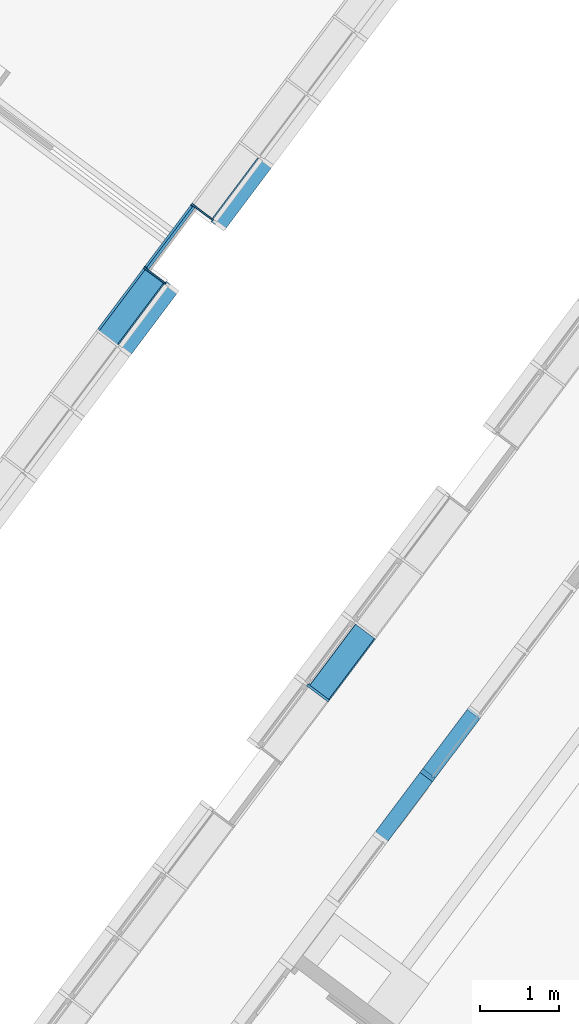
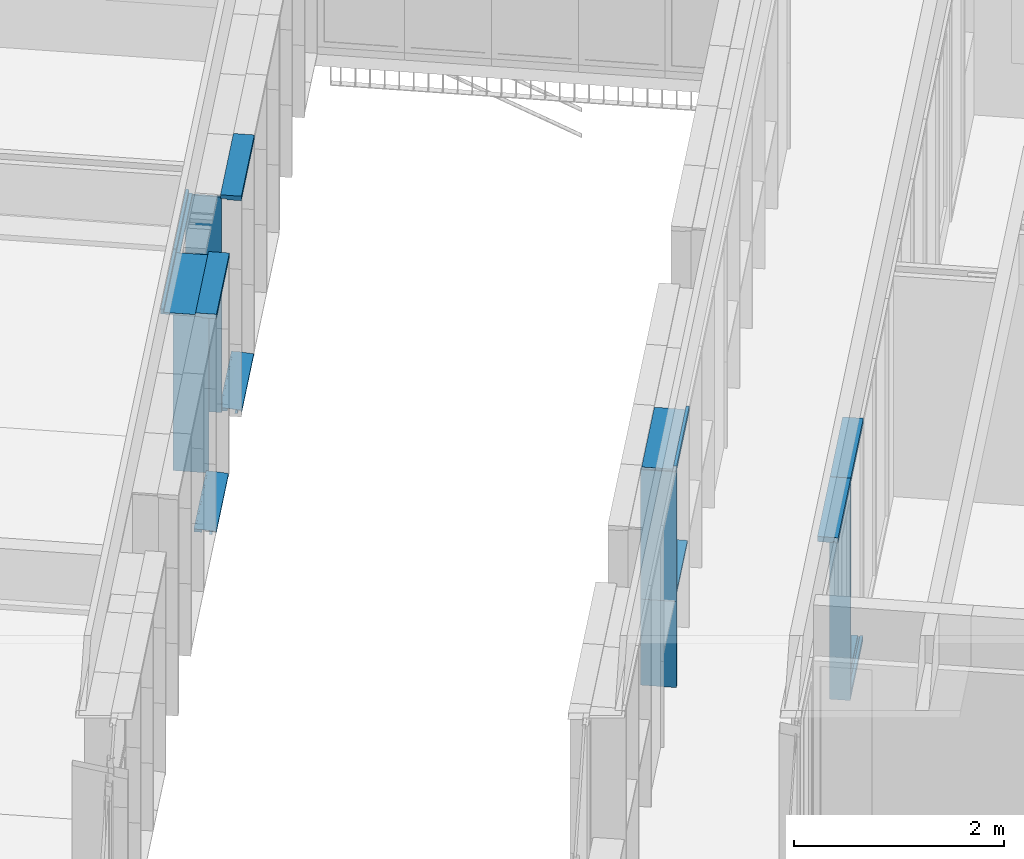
# One storey, part 45 of 243: 16 members, 4 elements without a shape of their own.
"""IFC2X3 building model written with IfcOpenShell, lengths in metres."""

from ifc_helpers import new_model, entity, si_unit, converted_unit, derived_unit, direction, frame, frame_2d, origin, place, context, subcontext, project, spatial, polyline, circle_curve, parameter, trimmed, segment, composite_curve, rectangle, outline, extrude, source, transform, mapped, material, type_object, type_shapes, element, aggregate, save


model = new_model("IFC2X3")

# Units and contexts
model_context = context("Model", 3, precision=1e-05, world=origin(), true_north=direction((6.123031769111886e-17, 1.0)))
body_context = subcontext(model_context, "Body", "Model", "MODEL_VIEW")
ifc_project = project(units=[si_unit("LENGTHUNIT", "METRE"), si_unit("AREAUNIT", "SQUARE_METRE"), si_unit("VOLUMEUNIT", "CUBIC_METRE"), converted_unit("PLANEANGLEUNIT", "DEGREE", entity("IfcRatioMeasure", 0.017453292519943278), si_unit("PLANEANGLEUNIT", "RADIAN"), dimensions=[0, 0, 0, 0, 0, 0, 0]), si_unit("MASSUNIT", "GRAM", prefix="KILO"), derived_unit("MASSDENSITYUNIT", [(si_unit("MASSUNIT", "GRAM", prefix="KILO"), 1), (si_unit("LENGTHUNIT", "METRE"), -3)]), derived_unit("IONCONCENTRATIONUNIT", [(si_unit("MASSUNIT", "GRAM", prefix="KILO"), 1), (si_unit("LENGTHUNIT", "METRE"), -3)]), derived_unit("MOMENTOFINERTIAUNIT", [(si_unit("LENGTHUNIT", "METRE"), 4)]), si_unit("TIMEUNIT", "SECOND"), si_unit("FREQUENCYUNIT", "HERTZ"), si_unit("THERMODYNAMICTEMPERATUREUNIT", "DEGREE_CELSIUS"), derived_unit("THERMALTRANSMITTANCEUNIT", [(si_unit("MASSUNIT", "GRAM", prefix="KILO"), 1), (si_unit("THERMODYNAMICTEMPERATUREUNIT", "KELVIN"), -1), (si_unit("TIMEUNIT", "SECOND"), -3)]), derived_unit("THERMALCONDUCTANCEUNIT", [(si_unit("MASSUNIT", "GRAM", prefix="KILO"), 1), (si_unit("THERMODYNAMICTEMPERATUREUNIT", "KELVIN"), -1), (si_unit("TIMEUNIT", "SECOND"), -3), (si_unit("LENGTHUNIT", "METRE"), 1)]), derived_unit("VOLUMETRICFLOWRATEUNIT", [(si_unit("LENGTHUNIT", "METRE"), 3), (si_unit("TIMEUNIT", "SECOND"), -1)]), derived_unit("MASSFLOWRATEUNIT", [(si_unit("MASSUNIT", "GRAM", prefix="KILO"), 1), (si_unit("TIMEUNIT", "SECOND"), -1)]), derived_unit("ROTATIONALFREQUENCYUNIT", [(si_unit("TIMEUNIT", "SECOND"), -1)]), si_unit("ELECTRICCURRENTUNIT", "AMPERE"), si_unit("ELECTRICVOLTAGEUNIT", "VOLT"), si_unit("POWERUNIT", "WATT"), si_unit("FORCEUNIT", "NEWTON", prefix="KILO"), si_unit("ILLUMINANCEUNIT", "LUX"), si_unit("LUMINOUSFLUXUNIT", "LUMEN"), si_unit("LUMINOUSINTENSITYUNIT", "CANDELA"), derived_unit("USERDEFINED", [(si_unit("MASSUNIT", "GRAM", prefix="KILO"), -1), (si_unit("LENGTHUNIT", "METRE"), -2), (si_unit("TIMEUNIT", "SECOND"), 3), (si_unit("LUMINOUSFLUXUNIT", "LUMEN"), 1)]), derived_unit("USERDEFINED", [(si_unit("MASSUNIT", "GRAM", prefix="KILO"), 1), (si_unit("TIMEUNIT", "SECOND"), -3), (si_unit("LENGTHUNIT", "METRE"), 3), (si_unit("ELECTRICCURRENTUNIT", "AMPERE"), -2)]), derived_unit("SOUNDPOWERUNIT", [(si_unit("MASSUNIT", "GRAM", prefix="KILO"), 1), (si_unit("TIMEUNIT", "SECOND"), -3), (si_unit("LENGTHUNIT", "METRE"), 2)]), derived_unit("SOUNDPRESSUREUNIT", [(si_unit("MASSUNIT", "GRAM", prefix="KILO"), 1), (si_unit("LENGTHUNIT", "METRE"), -1), (si_unit("TIMEUNIT", "SECOND"), -2)]), derived_unit("LINEARVELOCITYUNIT", [(si_unit("LENGTHUNIT", "METRE"), 1), (si_unit("TIMEUNIT", "SECOND"), -1)]), si_unit("PRESSUREUNIT", "PASCAL"), derived_unit("USERDEFINED", [(si_unit("MASSUNIT", "GRAM", prefix="KILO"), 1), (si_unit("LENGTHUNIT", "METRE"), -2), (si_unit("TIMEUNIT", "SECOND"), -2)]), derived_unit("LINEARFORCEUNIT", [(si_unit("MASSUNIT", "GRAM", prefix="KILO"), 1), (si_unit("TIMEUNIT", "SECOND"), -2)]), derived_unit("PLANARFORCEUNIT", [(si_unit("MASSUNIT", "GRAM", prefix="KILO"), 1), (si_unit("LENGTHUNIT", "METRE"), -1), (si_unit("TIMEUNIT", "SECOND"), -2)]), derived_unit("SPECIFICHEATCAPACITYUNIT", [(si_unit("THERMODYNAMICTEMPERATUREUNIT", "KELVIN"), -1), (si_unit("LENGTHUNIT", "METRE"), 2), (si_unit("TIMEUNIT", "SECOND"), -2)]), derived_unit("HEATINGVALUEUNIT", [(si_unit("LENGTHUNIT", "METRE"), 2), (si_unit("TIMEUNIT", "SECOND"), -2)]), derived_unit("VAPORPERMEABILITYUNIT", [(si_unit("LENGTHUNIT", "METRE"), -1), (si_unit("TIMEUNIT", "SECOND"), 1)]), derived_unit("DYNAMICVISCOSITYUNIT", [(si_unit("MASSUNIT", "GRAM", prefix="KILO"), 1), (si_unit("TIMEUNIT", "SECOND"), -1), (si_unit("LENGTHUNIT", "METRE"), -1)]), derived_unit("THERMALEXPANSIONCOEFFICIENTUNIT", [(si_unit("THERMODYNAMICTEMPERATUREUNIT", "KELVIN"), -1)]), derived_unit("MODULUSOFELASTICITYUNIT", [(si_unit("MASSUNIT", "GRAM", prefix="KILO"), 1), (si_unit("LENGTHUNIT", "METRE"), -1), (si_unit("TIMEUNIT", "SECOND"), -2)]), derived_unit("ISOTHERMALMOISTURECAPACITYUNIT", [(si_unit("LENGTHUNIT", "METRE"), 3), (si_unit("MASSUNIT", "GRAM", prefix="KILO"), -1)]), derived_unit("MOISTUREDIFFUSIVITYUNIT", [(si_unit("TIMEUNIT", "SECOND"), -1), (si_unit("LENGTHUNIT", "METRE"), 2)])], contexts=[model_context])

# Site, building, storey
site_placement = place(None, frame((0.0, 0.0, 235.0), z_axis=(0.0, 0.0, 1.0), x_axis=(-0.7996477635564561, 0.6004693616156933, 0.0)))
site = spatial("IfcSite", under=ifc_project, at=site_placement, Name="Default", CompositionType="ELEMENT")
building_placement = place(site_placement, origin())
building = spatial("IfcBuilding", under=site, at=building_placement, CompositionType="ELEMENT")
storey_placement = place(building_placement, origin())
storey = spatial("IfcBuildingStorey", under=building, at=storey_placement, Name="P0- Escola", CompositionType="ELEMENT", Elevation=0.0)

# Curtain wall, members
curtain_wall_type_1 = type_object("IfcCurtainWallType", Name="Muro cortina:MC- INT- a1", PredefinedType="NOTDEFINED")
curtain_wall_1_placement = place(storey_placement, origin())
curtain_wall_1 = element("IfcCurtainWall", 1, at=curtain_wall_1_placement, inside=storey, type_object=curtain_wall_type_1, Name="Muro cortina:MC- INT- a1", ObjectType="Muro cortina:MC- INT- a1")
ifc_material_1 = material(Name="_Fusta massisa- T1")
member_type_1 = type_object("IfcMemberType", Name="Montante rectangular:MC- Fusta- 20x6 cm- Esquerra", PredefinedType="MULLION", material=ifc_material_1)
shared_shape_1 = source(origin(), body_context, "Body", "SweptSolid", [
    extrude(outline(polyline([(-0.07000000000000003, -0.01875000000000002), (-0.04000000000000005, -0.01875000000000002), (-0.04000000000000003, -0.0037500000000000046), (-0.020000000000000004, -0.0037500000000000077), (-0.02, -0.018750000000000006), (0.13, -0.018749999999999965), (0.12999999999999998, 0.04125000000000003), (-0.06999999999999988, 0.04124999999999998), (-0.07000000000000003, -0.01875000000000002)])), frame((-0.041249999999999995, -0.03, -1.0), z_axis=(0.0, 0.0, 1.0), x_axis=(0.0, -1.0, 0.0)), (0.0, 0.0, 1.0), 0.9999999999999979),
])
type_shapes(member_type_1, [shared_shape_1])
member_1_placement = place(curtain_wall_1_placement, frame((47.320147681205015, -26.41518997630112, 2.565), z_axis=(0.0, -1.0, 0.0), x_axis=(0.0, 0.0, 1.0)))
member_1 = element("IfcMember", 2, at=member_1_placement, type_object=member_type_1, material=ifc_material_1, Name="Montante rectangular:MC- Fusta- 20x6 cm- Esquerra", ObjectType="Montante rectangular:MC- Fusta- 20x6 cm- Esquerra", context=body_context, shape_type="MappedRepresentation", body=[
    mapped(shared_shape_1, transform((0.0, 0.0, 0.0), scale=1.0)),
])
member_type_2 = type_object("IfcMemberType", Name="Montante rectangular:MC- Fusta- 20x6 cm- Neutre", PredefinedType="MULLION", material=ifc_material_1)
shared_shape_2 = source(origin(), body_context, "Body", "SweptSolid", [
    extrude(rectangle(XDim=0.2, YDim=0.060000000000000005, at=frame_2d((-4.85722573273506e-17, -3.469446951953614e-18), x_axis=(1.0, 0.0))), frame((-0.03, -0.060000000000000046, -1.0), z_axis=(0.0, 0.0, 1.0), x_axis=(0.0, -1.0, 0.0)), (0.0, 0.0, 1.0), 0.9999999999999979),
])
type_shapes(member_type_2, [shared_shape_2])
member_2_placement = place(curtain_wall_1_placement, frame((47.320147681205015, -27.415189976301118, 2.565), z_axis=(0.0, -1.0, 0.0), x_axis=(0.0, 0.0, 1.0)))
member_2 = element("IfcMember", 3, at=member_2_placement, type_object=member_type_2, material=ifc_material_1, Name="Montante rectangular:MC- Fusta- 20x6 cm- Neutre", ObjectType="Montante rectangular:MC- Fusta- 20x6 cm- Neutre", context=body_context, shape_type="MappedRepresentation", body=[
    mapped(shared_shape_2, transform((0.0, 0.0, 0.0), scale=1.0)),
])
member_type_3 = type_object("IfcMemberType", Name="Montante rectangular:MC- Fusta- 20x6 cm- Dreta", PredefinedType="MULLION", material=ifc_material_1)
shared_shape_3 = source(origin(), body_context, "Body", "SweptSolid", [
    extrude(outline(polyline([(-0.07000000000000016, -0.041249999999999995), (0.13000000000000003, -0.041249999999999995), (0.13000000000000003, 0.01875), (-0.019999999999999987, 0.01875), (-0.019999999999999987, 0.00375), (-0.04000000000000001, 0.00375), (-0.03999999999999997, 0.01875), (-0.06999999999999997, 0.01875), (-0.07000000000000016, -0.041249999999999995)])), frame((0.011250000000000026, -0.02999999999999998, -2.5050000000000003), z_axis=(0.0, 0.0, 1.0), x_axis=(0.0, -1.0, 0.0)), (0.0, 0.0, 1.0), 2.5050000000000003),
])
type_shapes(member_type_3, [shared_shape_3])
member_3_placement = place(curtain_wall_1_placement, frame((47.320147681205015, -26.41518997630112, 0.0), z_axis=(0.0, 0.0, -1.0), x_axis=(0.0, -1.0, 0.0)))
member_3 = element("IfcMember", 4, at=member_3_placement, type_object=member_type_3, material=ifc_material_1, Name="Montante rectangular:MC- Fusta- 20x6 cm- Dreta", ObjectType="Montante rectangular:MC- Fusta- 20x6 cm- Dreta", context=body_context, shape_type="MappedRepresentation", body=[
    mapped(shared_shape_3, transform((0.0, 0.0, 0.0), scale=1.0)),
])
member_type_4 = type_object("IfcMemberType", Name="Montante rectangular:MC- Fusta- 20x6 cm- Inferior", PredefinedType="MULLION", material=ifc_material_1)
shared_shape_4 = source(origin(), body_context, "Body", "SweptSolid", [
    extrude(outline(polyline([(-0.06999999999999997, -0.018750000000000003), (-0.039999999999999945, -0.018750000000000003), (-0.03999999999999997, -0.003750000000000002), (-0.019999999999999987, -0.0037500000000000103), (-0.019999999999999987, -0.018750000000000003), (0.13000000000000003, -0.018750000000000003), (0.13000000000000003, 0.041249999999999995), (-0.07000000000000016, 0.041249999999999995), (-0.06999999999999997, -0.018750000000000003)])), frame((-0.041249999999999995, -0.02999999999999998, -0.9399999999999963), z_axis=(0.0, 0.0, 1.0), x_axis=(0.0, -1.0, 0.0)), (0.0, 0.0, 1.0), 0.9399999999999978),
])
type_shapes(member_type_4, [shared_shape_4])
member_4_placement = place(curtain_wall_1_placement, frame((47.320147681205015, -26.445189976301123, 0.0), z_axis=(0.0, 1.0, 0.0), x_axis=(0.0, 0.0, -1.0)))
member_4 = element("IfcMember", 5, at=member_4_placement, type_object=member_type_4, material=ifc_material_1, Name="Montante rectangular:MC- Fusta- 20x6 cm- Inferior", ObjectType="Montante rectangular:MC- Fusta- 20x6 cm- Inferior", context=body_context, shape_type="MappedRepresentation", body=[
    mapped(shared_shape_4, transform((0.0, 0.0, 0.0), scale=1.0)),
])
aggregate(curtain_wall_1, [member_2, member_1, member_3, member_4])

curtain_wall_type_2 = type_object("IfcCurtainWallType", Name="Muro cortina:MC- INT- k7- Aules infantil", PredefinedType="NOTDEFINED")
curtain_wall_2_placement = place(storey_placement, origin())
curtain_wall_2 = element("IfcCurtainWall", 6, at=curtain_wall_2_placement, inside=storey, type_object=curtain_wall_type_2, Name="Muro cortina:MC- INT- k7- Aules infantil", ObjectType="Muro cortina:MC- INT- k7- Aules infantil")
member_type_5 = type_object("IfcMemberType", Name="Montante rectangular:MC- Fusta- 35x3 cm- Pati aules- Remat dreta", PredefinedType="MULLION", material=ifc_material_1)
shared_shape_5 = source(origin(), body_context, "Body", "SweptSolid", [
    extrude(outline(polyline([(-0.22, -0.01666666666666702), (0.12500000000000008, -0.01666666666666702), (0.12500000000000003, 0.013333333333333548), (0.09500000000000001, 0.013333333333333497), (0.09499999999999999, 0.003333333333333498), (-0.22, 0.003333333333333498), (-0.22, -0.01666666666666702)])), frame((0.0016666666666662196, 0.03000000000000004, -2.504999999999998), z_axis=(0.0, 0.0, 1.0), x_axis=(0.0, -1.0, 0.0)), (0.0, 0.0, 1.0), 2.5049999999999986),
])
type_shapes(member_type_5, [shared_shape_5])
member_5_placement = place(curtain_wall_2_placement, frame((54.04514768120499, -29.415191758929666, 0.0), z_axis=(0.0, 0.0, -1.0), x_axis=(0.0, -1.0, 0.0)))
member_5 = element("IfcMember", 7, at=member_5_placement, type_object=member_type_5, material=ifc_material_1, Name="Montante rectangular:MC- Fusta- 35x3 cm- Pati aules- Remat dreta", ObjectType="Montante rectangular:MC- Fusta- 35x3 cm- Pati aules- Remat dreta", context=body_context, shape_type="MappedRepresentation", body=[
    mapped(shared_shape_5, transform((0.0, 0.0, 0.0), scale=1.0)),
])
member_type_6 = type_object("IfcMemberType", Name="Montante rectangular:MC- Fusta- 35x3 cm- Pati aules- Remat superior pilar", PredefinedType="MULLION", material=ifc_material_1)
shared_shape_6 = source(origin(), body_context, "Body", "SweptSolid", [
    extrude(outline(polyline([(-0.03333333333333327, -0.02666666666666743), (0.031666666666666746, -0.02666666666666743), (0.031666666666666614, 0.03333333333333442), (0.0016666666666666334, 0.033333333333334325), (0.0016666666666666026, -0.006666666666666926), (-0.03333333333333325, -0.00666666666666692), (-0.03333333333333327, -0.02666666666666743)])), frame((-0.03333333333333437, -0.06333333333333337, -1.0), z_axis=(0.0, 0.0, 1.0), x_axis=(0.0, -1.0, 0.0)), (0.0, 0.0, 1.0), 0.9999999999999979),
])
type_shapes(member_type_6, [shared_shape_6])
member_6_placement = place(curtain_wall_2_placement, frame((54.045147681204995, -30.415191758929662, 2.565), z_axis=(0.0, -1.0, 0.0), x_axis=(0.0, 0.0, 1.0)))
member_6 = element("IfcMember", 8, at=member_6_placement, type_object=member_type_6, material=ifc_material_1, Name="Montante rectangular:MC- Fusta- 35x3 cm- Pati aules- Remat superior pilar", ObjectType="Montante rectangular:MC- Fusta- 35x3 cm- Pati aules- Remat superior pilar", context=body_context, shape_type="MappedRepresentation", body=[
    mapped(shared_shape_6, transform((0.0, 0.0, 0.0), scale=1.0)),
])
member_type_7 = type_object("IfcMemberType", Name="Montante rectangular:MC- Fusta- 35x3 cm- Pati aules- Remat esquerra", PredefinedType="MULLION", material=ifc_material_1)
shared_shape_7 = source(origin(), body_context, "Body", "SweptSolid", [
    extrude(outline(polyline([(0.09500000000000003, -0.013333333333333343), (0.12500000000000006, -0.013333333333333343), (0.12500000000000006, 0.01666666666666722), (-0.22000000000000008, 0.016666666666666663), (-0.22000000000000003, -0.0033333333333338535), (0.09499999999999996, -0.003333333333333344), (0.09500000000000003, -0.013333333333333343)])), frame((-0.0016666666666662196, 0.03000000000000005, -2.504999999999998), z_axis=(0.0, 0.0, 1.0), x_axis=(0.0, -1.0, 0.0)), (0.0, 0.0, 1.0), 2.5049999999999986),
])
type_shapes(member_type_7, [shared_shape_7])
member_7_placement = place(curtain_wall_2_placement, frame((54.045147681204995, -30.415191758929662, 0.0), z_axis=(0.0, 0.0, -1.0), x_axis=(0.0, -1.0, 0.0)))
member_7 = element("IfcMember", 9, at=member_7_placement, type_object=member_type_7, material=ifc_material_1, Name="Montante rectangular:MC- Fusta- 35x3 cm- Pati aules- Remat esquerra", ObjectType="Montante rectangular:MC- Fusta- 35x3 cm- Pati aules- Remat esquerra", context=body_context, shape_type="MappedRepresentation", body=[
    mapped(shared_shape_7, transform((0.0, 0.0, 0.0), scale=1.0)),
])
member_type_8 = type_object("IfcMemberType", Name="Montante rectangular:MC- Fusta- 35x3 cm- Pati aules- Remat superior", PredefinedType="MULLION", material=ifc_material_1)
shared_shape_8 = source(origin(), body_context, "Body", "SweptSolid", [
    extrude(outline(polyline([(-0.21333333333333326, -0.02666666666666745), (0.1216666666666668, -0.02666666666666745), (0.12166666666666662, 0.03333333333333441), (0.09166666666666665, 0.03333333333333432), (0.09166666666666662, -0.006666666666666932), (-0.2133333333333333, -0.006666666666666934), (-0.21333333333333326, -0.02666666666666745)])), frame((-0.033333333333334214, 0.026666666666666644, -1.0), z_axis=(0.0, 0.0, 1.0), x_axis=(0.0, -1.0, 0.0)), (0.0, 0.0, 1.0), 0.9999999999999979),
])
type_shapes(member_type_8, [shared_shape_8])
member_8_placement = place(curtain_wall_2_placement, frame((54.04514768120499, -29.415191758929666, 2.565), z_axis=(0.0, -1.0, 0.0), x_axis=(0.0, 0.0, 1.0)))
member_8 = element("IfcMember", 10, at=member_8_placement, type_object=member_type_8, material=ifc_material_1, Name="Montante rectangular:MC- Fusta- 35x3 cm- Pati aules- Remat superior", ObjectType="Montante rectangular:MC- Fusta- 35x3 cm- Pati aules- Remat superior", context=body_context, shape_type="MappedRepresentation", body=[
    mapped(shared_shape_8, transform((0.0, 0.0, 0.0), scale=1.0)),
])
aggregate(curtain_wall_2, [member_8, member_5, member_6, member_7])

curtain_wall_type_3 = type_object("IfcCurtainWallType", Name="Muro cortina:MC- INT- k2", PredefinedType="NOTDEFINED")
curtain_wall_3_placement = place(storey_placement, origin())
curtain_wall_3 = element("IfcCurtainWall", 11, at=curtain_wall_3_placement, inside=storey, type_object=curtain_wall_type_3, Name="Muro cortina:MC- INT- k2", ObjectType="Muro cortina:MC- INT- k2")
member_type_9 = type_object("IfcMemberType", Name="Montante rectangular:MC- Fusta- 35x3 cm- Centre", PredefinedType="MULLION", material=ifc_material_1)
shared_shape_9 = source(origin(), body_context, "Body", "SweptSolid", [
    extrude(rectangle(XDim=0.3450000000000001, YDim=0.030000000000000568, at=frame_2d((0.0, -1.3964523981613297e-16), x_axis=(1.0, 0.0))), frame((0.0, -0.07750000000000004, -1.0), z_axis=(0.0, 0.0, 1.0), x_axis=(0.0, -1.0, 0.0)), (0.0, 0.0, 1.0), 1.0),
])
type_shapes(member_type_9, [shared_shape_9])
member_9_placement = place(curtain_wall_3_placement, frame((49.04514768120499, -26.415191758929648, 0.0), z_axis=(0.0, 0.0, -1.0), x_axis=(0.0, -1.0, 0.0)))
member_9 = element("IfcMember", 12, at=member_9_placement, type_object=member_type_9, material=ifc_material_1, Name="Montante rectangular:MC- Fusta- 35x3 cm- Centre", ObjectType="Montante rectangular:MC- Fusta- 35x3 cm- Centre", context=body_context, shape_type="MappedRepresentation", body=[
    mapped(shared_shape_9, transform((0.0, 0.0, 0.0), scale=1.0)),
])
member_type_10 = type_object("IfcMemberType", Name="Montante rectangular:MC- Fusta- 35x3 cm- Pati aules- Remat superior", PredefinedType="MULLION", material=ifc_material_1)
shared_shape_10 = source(origin(), body_context, "Body", "SweptSolid", [
    extrude(outline(polyline([(-0.12166666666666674, -0.02666666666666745), (0.21333333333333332, -0.02666666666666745), (0.2133333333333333, -0.006666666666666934), (-0.09166666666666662, -0.006666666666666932), (-0.09166666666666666, 0.03333333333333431), (-0.12166666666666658, 0.03333333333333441), (-0.12166666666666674, -0.02666666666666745)])), frame((-0.033333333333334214, -0.026666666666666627, -1.0), z_axis=(0.0, 0.0, 1.0), x_axis=(0.0, -1.0, 0.0)), (0.0, 0.0, 1.0), 0.9999999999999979),
])
type_shapes(member_type_10, [shared_shape_10])
member_10_placement = place(curtain_wall_3_placement, frame((49.04514768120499, -27.415191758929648, 2.565), z_axis=(0.0, -1.0, 0.0), x_axis=(0.0, 0.0, 1.0)))
member_10 = element("IfcMember", 13, at=member_10_placement, type_object=member_type_10, material=ifc_material_1, Name="Montante rectangular:MC- Fusta- 35x3 cm- Pati aules- Remat superior", ObjectType="Montante rectangular:MC- Fusta- 35x3 cm- Pati aules- Remat superior", context=body_context, shape_type="MappedRepresentation", body=[
    mapped(shared_shape_10, transform((0.0, 0.0, 0.0), scale=1.0)),
])
member_type_11 = type_object("IfcMemberType", Name="Montante rectangular:MC- Fusta- 35x3 cm- Pati aules- Prestatge", PredefinedType="MULLION", material=ifc_material_1)
shared_shape_11 = source(origin(), body_context, "Body", "SweptSolid", [
    extrude(rectangle(XDim=0.30000000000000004, YDim=0.03000000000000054, at=frame_2d((0.0, -1.231653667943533e-16), x_axis=(1.0, 0.0))), frame((0.0, -0.07000000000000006, -0.9699999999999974), z_axis=(0.0, 0.0, 1.0), x_axis=(0.0, -1.0, 0.0)), (0.0, 0.0, 1.0), 0.969999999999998),
])
type_shapes(member_type_11, [shared_shape_11])
member_11_placement = place(curtain_wall_3_placement, frame((49.04514768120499, -27.400191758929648, 1.0), z_axis=(0.0, -1.0, 0.0), x_axis=(0.0, 0.0, 1.0)))
member_11 = element("IfcMember", 14, at=member_11_placement, type_object=member_type_11, material=ifc_material_1, Name="Montante rectangular:MC- Fusta- 35x3 cm- Pati aules- Prestatge", ObjectType="Montante rectangular:MC- Fusta- 35x3 cm- Pati aules- Prestatge", context=body_context, shape_type="MappedRepresentation", body=[
    mapped(shared_shape_11, transform((0.0, 0.0, 0.0), scale=1.0)),
])
member_type_12 = type_object("IfcMemberType", Name="Montante rectangular:MC- Fusta- 35x3 cm- Centre", PredefinedType="MULLION", material=ifc_material_1)
shared_shape_12 = source(origin(), body_context, "Body", "SweptSolid", [
    extrude(rectangle(XDim=0.3450000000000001, YDim=0.030000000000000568, at=frame_2d((0.0, -1.3964523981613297e-16), x_axis=(1.0, 0.0))), frame((0.0, -0.07750000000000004, -1.504999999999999), z_axis=(0.0, 0.0, 1.0), x_axis=(0.0, -1.0, 0.0)), (0.0, 0.0, 1.0), 1.504999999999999),
])
type_shapes(member_type_12, [shared_shape_12])
member_12_placement = place(curtain_wall_3_placement, frame((49.04514768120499, -26.415191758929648, 1.0), z_axis=(0.0, 0.0, -1.0), x_axis=(0.0, -1.0, 0.0)))
member_12 = element("IfcMember", 15, at=member_12_placement, type_object=member_type_12, material=ifc_material_1, Name="Montante rectangular:MC- Fusta- 35x3 cm- Centre", ObjectType="Montante rectangular:MC- Fusta- 35x3 cm- Centre", context=body_context, shape_type="MappedRepresentation", body=[
    mapped(shared_shape_12, transform((0.0, 0.0, 0.0), scale=1.0)),
])
aggregate(curtain_wall_3, [member_9, member_10, member_11, member_12])

curtain_wall_type_4 = type_object("IfcCurtainWallType", Name="Muro cortina:MC- EXT- MC2", PredefinedType="NOTDEFINED")
curtain_wall_4_placement = place(storey_placement, origin())
curtain_wall_4 = element("IfcCurtainWall", 16, at=curtain_wall_4_placement, inside=storey, type_object=curtain_wall_type_4, Name="Muro cortina:MC- EXT- MC2", ObjectType="Muro cortina:MC- EXT- MC2")
ifc_material_2 = material(Name="_Alumini- T1- Perfil")
member_type_13 = type_object("IfcMemberType", Name="Montante rectangular:MC- Alu- 140x52,5 cm- Fa patis- Superior", PredefinedType="MULLION", material=ifc_material_2)
shared_shape_13 = source(origin(), body_context, "Body", "SweptSolid", [
    extrude(outline(polyline([(-0.11366666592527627, -0.021249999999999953), (0.02633333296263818, -0.021249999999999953), (0.02633333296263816, -0.010000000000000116), (0.08733333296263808, -0.010000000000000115), (0.08733333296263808, 0.03125000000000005), (-0.11366666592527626, 0.031250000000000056), (-0.11366666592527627, -0.021249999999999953)])), frame((-0.031250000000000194, 0.027333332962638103, -1.0262500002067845), z_axis=(0.0, 0.0, 1.0), x_axis=(0.0, -1.0, 0.0)), (0.0, 0.0, 1.0), 1.0262500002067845),
])
type_shapes(member_type_13, [shared_shape_13])
member_13_placement = place(curtain_wall_4_placement, frame((53.74514768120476, -31.415191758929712, 2.545), z_axis=(0.0, -1.0, 0.0), x_axis=(0.0, 0.0, 1.0)))
member_13 = element("IfcMember", 17, at=member_13_placement, type_object=member_type_13, material=ifc_material_2, Name="Montante rectangular:MC- Alu- 140x52,5 cm- Fa patis- Superior", ObjectType="Montante rectangular:MC- Alu- 140x52,5 cm- Fa patis- Superior", context=body_context, shape_type="MappedRepresentation", body=[
    mapped(shared_shape_13, transform((0.0, 0.0, 0.0), scale=1.0)),
])
member_type_14 = type_object("IfcMemberType", Name="Montante rectangular:MC- Alu- 140x52,5 cm- Fa patis- inferior", PredefinedType="MULLION", material=ifc_material_2)
shared_shape_14 = source(origin(), body_context, "Body", "SweptSolid", [
    extrude(outline(composite_curve([segment(polyline([(0.1278672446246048, -0.02586710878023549), (0.14416724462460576, -0.025867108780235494)]), True, "CONTINUOUS"), segment(polyline([(0.14416724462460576, -0.025867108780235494), (0.1441672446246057, 0.009132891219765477)]), True, "CONTINUOUS"), segment(polyline([(0.1441672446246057, 0.009132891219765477), (0.06786724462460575, 0.009132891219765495)]), True, "CONTINUOUS"), segment(polyline([(0.06786724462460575, 0.009132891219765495), (0.06786724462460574, -0.021159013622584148)]), True, "CONTINUOUS"), segment(polyline([(0.06786724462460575, -0.02115901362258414), (-0.030132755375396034, -0.012332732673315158)]), True, "CONTINUOUS"), segment(polyline([(-0.03013275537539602, -0.012332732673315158), (-0.030132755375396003, 0.027132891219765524)]), True, "CONTINUOUS"), segment(polyline([(-0.030132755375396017, 0.02713289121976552), (-0.0021327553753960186, 0.02713289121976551)]), True, "CONTINUOUS"), segment(polyline([(-0.0021327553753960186, 0.027132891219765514), (-0.0021327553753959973, 0.029132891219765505)]), True, "CONTINUOUS"), segment(polyline([(-0.0021327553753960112, 0.029132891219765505), (-0.032132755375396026, 0.029132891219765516)]), True, "CONTINUOUS"), segment(polyline([(-0.032132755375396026, 0.029132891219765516), (-0.03213275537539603, -0.012152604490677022)]), True, "CONTINUOUS"), segment(polyline([(-0.03213275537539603, -0.012152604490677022), (-0.0701327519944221, -0.008730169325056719)]), True, "CONTINUOUS"), segment(polyline([(-0.0701327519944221, -0.008730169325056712), (-0.0701327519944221, 0.005766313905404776)]), True, "CONTINUOUS"), segment(trimmed(circle_curve(frame_2d((-0.0696327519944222, 0.0057663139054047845), x_axis=(-1.0, 0.0)), 0.0004999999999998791), [parameter(269.999999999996)], [parameter(0.0)], True, "PARAMETER"), False, "CONTINUOUS"), segment(polyline([(-0.0696327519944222, 0.00626631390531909), (-0.06213275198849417, 0.006266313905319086)]), True, "CONTINUOUS"), segment(polyline([(-0.06213275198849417, 0.006266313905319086), (-0.06213275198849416, 0.008266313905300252)]), True, "CONTINUOUS"), segment(polyline([(-0.06213275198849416, 0.008266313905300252), (-0.07013275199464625, 0.008266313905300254)]), True, "CONTINUOUS"), segment(trimmed(circle_curve(frame_2d((-0.07013275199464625, 0.006266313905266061), x_axis=(0.0, 1.0)), 0.0020000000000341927), [parameter(0.0)], [parameter(90.00000002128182)], True, "PARAMETER"), True, "CONTINUOUS"), segment(polyline([(-0.07213275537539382, 0.006266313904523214), (-0.07213275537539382, -0.008730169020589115)]), True, "CONTINUOUS"), segment(trimmed(circle_curve(frame_2d((-0.07013275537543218, -0.008730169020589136), x_axis=(-1.0, 0.0)), 0.0019999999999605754), [parameter(0.0)], [parameter(84.85359280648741)], True, "PARAMETER"), True, "CONTINUOUS"), segment(polyline([(-0.07031215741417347, -0.01072210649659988), (0.06786724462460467, -0.023167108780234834)]), True, "CONTINUOUS"), segment(polyline([(0.06786724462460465, -0.023167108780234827), (0.12786724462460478, -0.023167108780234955)]), True, "CONTINUOUS"), segment(polyline([(0.12786724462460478, -0.023167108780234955), (0.1278672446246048, -0.02586710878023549)]), True, "CONTINUOUS")], self_intersect=False)), frame((-0.029132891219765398, 0.06786724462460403, -0.9737499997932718), z_axis=(0.0, 0.0, 1.0), x_axis=(0.0, -1.0, 0.0)), (0.0, 0.0, 1.0), 0.9737499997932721),
])
type_shapes(member_type_14, [shared_shape_14])
member_14_placement = place(curtain_wall_4_placement, frame((53.74514768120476, -28.415191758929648, -0.02), z_axis=(0.0, 1.0, 0.0), x_axis=(0.0, 0.0, -1.0)))
member_14 = element("IfcMember", 18, at=member_14_placement, type_object=member_type_14, material=ifc_material_2, Name="Montante rectangular:MC- Alu- 140x52,5 cm- Fa patis- inferior", ObjectType="Montante rectangular:MC- Alu- 140x52,5 cm- Fa patis- inferior", context=body_context, shape_type="MappedRepresentation", body=[
    mapped(shared_shape_14, transform((0.0, 0.0, 0.0), scale=1.0)),
])
member_type_15 = type_object("IfcMemberType", Name="Montante rectangular:MC- Alu- 140x52,5 cm- Fa patis- Superior", PredefinedType="MULLION", material=ifc_material_2)
shared_shape_15 = source(origin(), body_context, "Body", "SweptSolid", [
    extrude(outline(polyline([(-0.11366666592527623, -0.021249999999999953), (0.026333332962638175, -0.021249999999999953), (0.026333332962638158, -0.010000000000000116), (0.08733333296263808, -0.010000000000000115), (0.08733333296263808, 0.03125000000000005), (-0.11366666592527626, 0.031250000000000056), (-0.11366666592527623, -0.021249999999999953)])), frame((-0.031250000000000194, 0.0273333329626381, -1.0262500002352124), z_axis=(0.0, 0.0, 1.0), x_axis=(0.0, -1.0, 0.0)), (0.0, 0.0, 1.0), 1.0262500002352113),
])
type_shapes(member_type_15, [shared_shape_15])
member_15_placement = place(curtain_wall_4_placement, frame((53.74514768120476, -29.441441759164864, 2.545), z_axis=(0.0, -1.0, 0.0), x_axis=(0.0, 0.0, 1.0)))
member_15 = element("IfcMember", 19, at=member_15_placement, type_object=member_type_15, material=ifc_material_2, Name="Montante rectangular:MC- Alu- 140x52,5 cm- Fa patis- Superior", ObjectType="Montante rectangular:MC- Alu- 140x52,5 cm- Fa patis- Superior", context=body_context, shape_type="MappedRepresentation", body=[
    mapped(shared_shape_15, transform((0.0, 0.0, 0.0), scale=1.0)),
])
member_type_16 = type_object("IfcMemberType", Name="Montante rectangular:MC- Alu- 140x52,5 cm- Fa patis- inferior", PredefinedType="MULLION", material=ifc_material_2)
shared_shape_16 = source(origin(), body_context, "Body", "SweptSolid", [
    extrude(outline(composite_curve([segment(polyline([(0.1278672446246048, -0.02586710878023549), (0.14416724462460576, -0.025867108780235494)]), True, "CONTINUOUS"), segment(polyline([(0.14416724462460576, -0.025867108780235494), (0.1441672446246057, 0.009132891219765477)]), True, "CONTINUOUS"), segment(polyline([(0.1441672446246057, 0.009132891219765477), (0.06786724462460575, 0.009132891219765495)]), True, "CONTINUOUS"), segment(polyline([(0.06786724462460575, 0.009132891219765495), (0.06786724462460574, -0.021159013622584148)]), True, "CONTINUOUS"), segment(polyline([(0.06786724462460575, -0.02115901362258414), (-0.030132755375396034, -0.012332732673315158)]), True, "CONTINUOUS"), segment(polyline([(-0.03013275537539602, -0.012332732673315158), (-0.030132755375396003, 0.027132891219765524)]), True, "CONTINUOUS"), segment(polyline([(-0.030132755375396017, 0.02713289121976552), (-0.0021327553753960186, 0.02713289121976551)]), True, "CONTINUOUS"), segment(polyline([(-0.0021327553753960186, 0.027132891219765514), (-0.0021327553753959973, 0.029132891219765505)]), True, "CONTINUOUS"), segment(polyline([(-0.0021327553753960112, 0.029132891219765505), (-0.032132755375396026, 0.029132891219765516)]), True, "CONTINUOUS"), segment(polyline([(-0.032132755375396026, 0.029132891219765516), (-0.03213275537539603, -0.012152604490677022)]), True, "CONTINUOUS"), segment(polyline([(-0.03213275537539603, -0.012152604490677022), (-0.0701327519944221, -0.008730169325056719)]), True, "CONTINUOUS"), segment(polyline([(-0.0701327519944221, -0.008730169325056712), (-0.0701327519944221, 0.005766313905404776)]), True, "CONTINUOUS"), segment(trimmed(circle_curve(frame_2d((-0.0696327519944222, 0.0057663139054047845), x_axis=(-1.0, 0.0)), 0.0004999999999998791), [parameter(269.999999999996)], [parameter(0.0)], True, "PARAMETER"), False, "CONTINUOUS"), segment(polyline([(-0.0696327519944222, 0.00626631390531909), (-0.06213275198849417, 0.006266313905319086)]), True, "CONTINUOUS"), segment(polyline([(-0.06213275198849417, 0.006266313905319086), (-0.06213275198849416, 0.008266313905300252)]), True, "CONTINUOUS"), segment(polyline([(-0.06213275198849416, 0.008266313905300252), (-0.07013275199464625, 0.008266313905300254)]), True, "CONTINUOUS"), segment(trimmed(circle_curve(frame_2d((-0.07013275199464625, 0.006266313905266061), x_axis=(0.0, 1.0)), 0.0020000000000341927), [parameter(0.0)], [parameter(90.00000002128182)], True, "PARAMETER"), True, "CONTINUOUS"), segment(polyline([(-0.07213275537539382, 0.006266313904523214), (-0.07213275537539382, -0.008730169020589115)]), True, "CONTINUOUS"), segment(trimmed(circle_curve(frame_2d((-0.07013275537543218, -0.008730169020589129), x_axis=(-1.0, 0.0)), 0.0019999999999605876), [parameter(0.0)], [parameter(84.85359280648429)], True, "PARAMETER"), True, "CONTINUOUS"), segment(polyline([(-0.07031215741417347, -0.01072210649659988), (0.06786724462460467, -0.023167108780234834)]), True, "CONTINUOUS"), segment(polyline([(0.06786724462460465, -0.023167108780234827), (0.12786724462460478, -0.023167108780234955)]), True, "CONTINUOUS"), segment(polyline([(0.12786724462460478, -0.023167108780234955), (0.1278672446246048, -0.02586710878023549)]), True, "CONTINUOUS")], self_intersect=False)), frame((-0.029132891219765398, 0.06786724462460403, -0.9474999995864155), z_axis=(0.0, 0.0, 1.0), x_axis=(0.0, -1.0, 0.0)), (0.0, 0.0, 1.0), 0.9474999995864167),
])
type_shapes(member_type_16, [shared_shape_16])
member_16_placement = place(curtain_wall_4_placement, frame((53.74514768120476, -30.441441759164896, -0.02), z_axis=(0.0, 1.0, 0.0), x_axis=(0.0, 0.0, -1.0)))
member_16 = element("IfcMember", 20, at=member_16_placement, type_object=member_type_16, material=ifc_material_2, Name="Montante rectangular:MC- Alu- 140x52,5 cm- Fa patis- inferior", ObjectType="Montante rectangular:MC- Alu- 140x52,5 cm- Fa patis- inferior", context=body_context, shape_type="MappedRepresentation", body=[
    mapped(shared_shape_16, transform((0.0, 0.0, 0.0), scale=1.0)),
])
aggregate(curtain_wall_4, [member_14, member_15, member_13, member_16])

save(model, "model.ifc")
